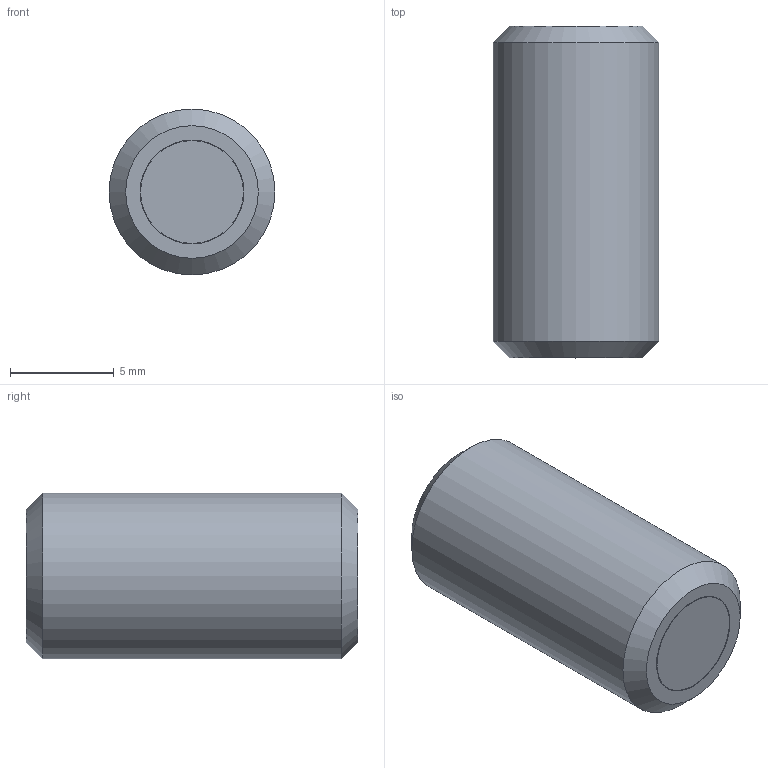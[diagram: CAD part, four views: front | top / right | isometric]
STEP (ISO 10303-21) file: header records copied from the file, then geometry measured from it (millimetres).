
FILE_DESCRIPTION(/* description */ ('STEP AP214'),/* implementation_level */ '2;1');
FILE_NAME(/* name */ 'Grub screw with retaining magnet GN 913.6-M8-16-ND',/* time_stamp */ '2023-09-27T13:15:15+02:00',/* author */ ('License CC BY-ND 4.0'),/* organization */ ('CADENAS'),/* preprocessor_version */ 'ST-DEVELOPER v19.3',/* originating_system */ 'PARTsolutions',/* authorisation */ ' ');
FILE_SCHEMA (('AUTOMOTIVE_DESIGN {1 0 10303 214 3 1 1}'));
Length unit declared in the file: millimetre
Products named in the file (1): Grub screw with retaining magnet GN 913.6-M8-16-ND
Bounding box: 8 x 16 x 8 mm (x, y, z)
Volume: 731.5 mm3; surface area: 532.9 mm2
Topology: 1 solids, 1 shells, 22 faces, 45 edges, 27 vertices
Faces by surface type: plane 16, cone 3, cylinder 3
Full cylindrical faces by diameter (mm): 4.96 x1, 5 x1, 8 x1
Entity records: 566 total; most frequent: DIRECTION 98, CARTESIAN_POINT 88, ORIENTED_EDGE 76, EDGE_CURVE 38, AXIS2_PLACEMENT_3D 37, FACE_BOUND 31, EDGE_LOOP 30, VERTEX_POINT 27
